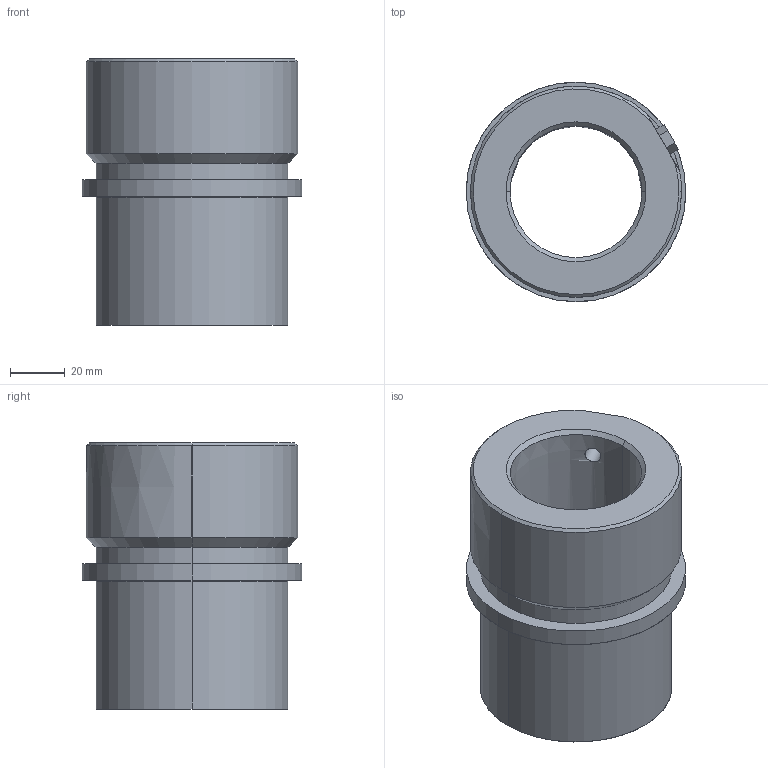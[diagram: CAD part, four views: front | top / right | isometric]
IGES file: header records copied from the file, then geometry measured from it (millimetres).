
Start section: START RECORD GO HERE.
Global section: file name: 741-48.igs; native system: DASSAULT SYSTEMES CATIA V5 R20 - www.3ds.com; preprocessor: CATIA Version 5 Release 20 ; author: Utente; organization: NB04-ASUS; date: 20210120.185736; units: millimetre
Bounding box: 80 x 80 x 97 mm (x, y, z)
Surface area: 44778 mm2 (no closed solid volume)
Topology: 0 solids, 0 shells, 42 faces, 186 edges, 186 vertices
Faces by surface type: revolution 27, plane 15
